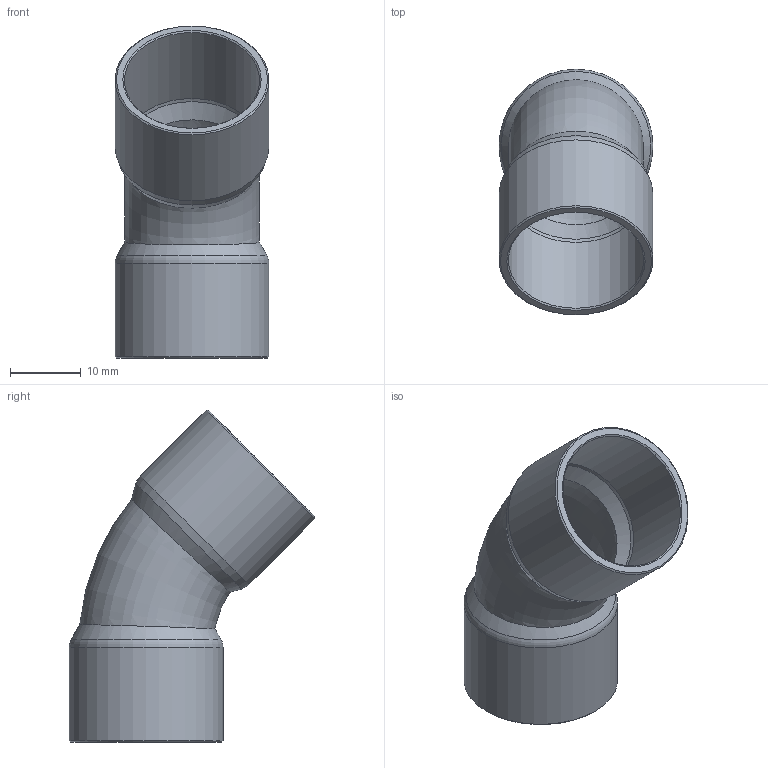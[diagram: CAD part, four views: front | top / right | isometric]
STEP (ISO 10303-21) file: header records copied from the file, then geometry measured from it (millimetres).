
FILE_DESCRIPTION((''),'2;1');
FILE_NAME('G:\SANHA-Ternat\Technik\Management\Bouwmaten + markeringen\z-maattekeningen 3D\29000s\2904134_3d.stp','2017-07-26T11:27:55',('vdvijverd'),(''),'Autodesk Inventor 2009','Autodesk Inventor 2009','');
FILE_SCHEMA(('AUTOMOTIVE_DESIGN { 1 0 10303 214 1 1 1 1 }'));
Length unit declared in the file: millimetre
Products named in the file (1): 2904134_3d
Bounding box: 21.77 x 34.76 x 46.96 mm (x, y, z)
Volume: 3655.8 mm3; surface area: 5769 mm2
Topology: 1 solids, 1 shells, 20 faces, 38 edges, 20 vertices
Faces by surface type: bspline 8, cone 6, torus 3, cylinder 2, plane 1
Full cylindrical faces by diameter (mm): 19.17 x1, 21.77 x1
Entity records: 810 total; most frequent: CARTESIAN_POINT 480, DIRECTION 58, ORIENTED_EDGE 40, EDGE_LOOP 40, AXIS2_PLACEMENT_3D 29, VERTEX_POINT 20, EDGE_CURVE 20, FACE_OUTER_BOUND 20
